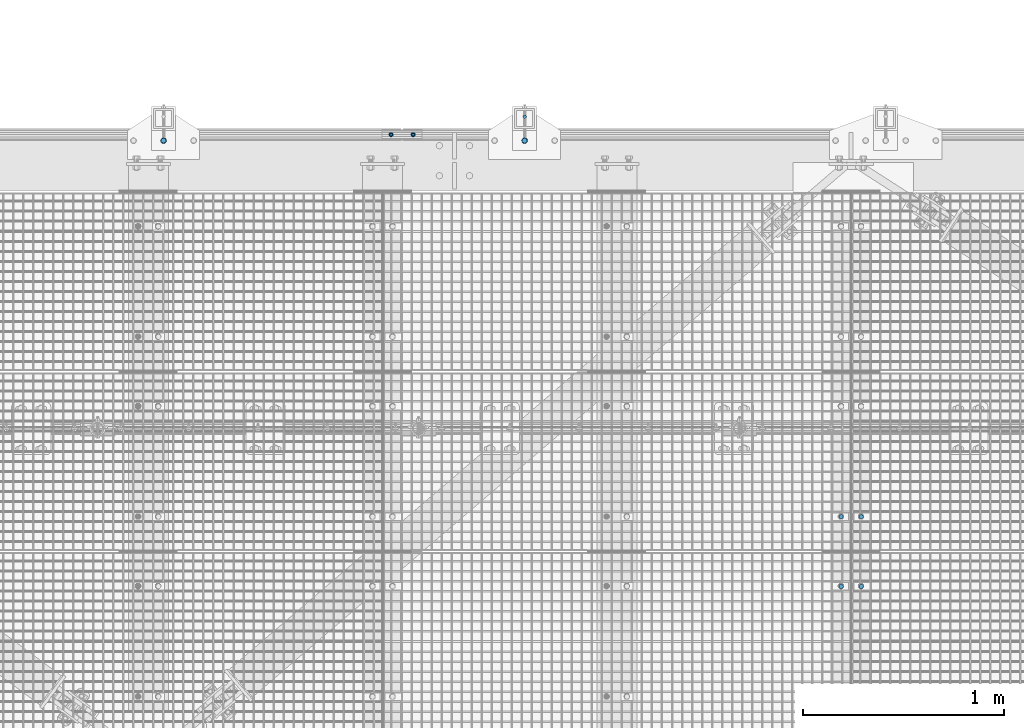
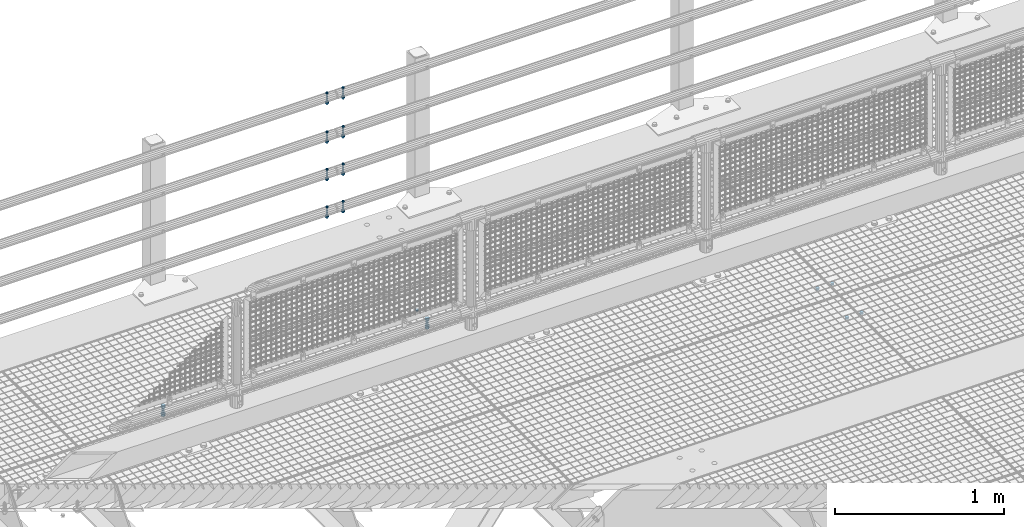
# One storey, part 85 of 1530: 15 mechanical fasteners.
"""IFC2X3 building model written with IfcOpenShell, lengths in millimetres."""

from ifc_helpers import new_model, si_unit, frame, origin_with_axes, place, context, subcontext, project, spatial, faceted_brep, source, transform, mapped, material, type_object, element, save


model = new_model("IFC2X3")

# Units and contexts
model_context = context("Model", 3, precision=1e-05, world=origin_with_axes())
body_context = subcontext(model_context, "Body", "Model", "MODEL_VIEW")
ifc_project = project(units=[si_unit("LENGTHUNIT", "METRE", prefix="MILLI"), si_unit("AREAUNIT", "SQUARE_METRE"), si_unit("VOLUMEUNIT", "CUBIC_METRE"), si_unit("MASSUNIT", "GRAM", prefix="KILO"), si_unit("TIMEUNIT", "SECOND"), si_unit("PLANEANGLEUNIT", "RADIAN"), si_unit("SOLIDANGLEUNIT", "STERADIAN"), si_unit("THERMODYNAMICTEMPERATUREUNIT", "DEGREE_CELSIUS"), si_unit("LUMINOUSINTENSITYUNIT", "LUMEN")], contexts=[model_context])

# Site, building, storey
site_placement = place(None, origin_with_axes())
site = spatial("IfcSite", under=ifc_project, at=site_placement, Name="Brattvåg", CompositionType="ELEMENT")
building_placement = place(site_placement, origin_with_axes())
building = spatial("IfcBuilding", under=site, at=building_placement, Name="Undefined", CompositionType="ELEMENT")
storey_placement = place(building_placement, origin_with_axes())
storey = spatial("IfcBuildingStorey", under=building, at=storey_placement, Name="Undefined", CompositionType="ELEMENT", Elevation=0.0)

# Mechanical fasteners
ifc_material = material(Name="8")
mechanical_fastener_type = type_object("IfcMechanicalFastenerType", Name="Bolt assembly")
shared_shape_1 = source(origin_with_axes(), body_context, "Body", "Brep", [
    faceted_brep([(11.0, -4.99999999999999, 0.0), (9.52627944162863, -4.99999999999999, 5.50000000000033), (5.49999999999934, -4.99999999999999, 9.5262794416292), (-1.13996957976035e-12, -4.99999999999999, 11.0), (-5.50000000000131, -4.99999999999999, 9.52627944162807), (-9.52627944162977, -4.99999999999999, 5.49999999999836), (-11.0, -4.99999999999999, -2.27993915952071e-12), (-9.5262794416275, -4.99999999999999, -5.5000000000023), (-5.49999999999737, -4.99999999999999, -9.52627944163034), (3.40769628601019e-12, -4.99999999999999, -11.0), (5.50000000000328, -4.99999999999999, -9.52627944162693), (9.52627944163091, -4.99999999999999, -5.49999999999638), (9.52627944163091, 10.1, -5.49999999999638), (5.50000000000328, 10.1, -9.52627944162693), (3.40769628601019e-12, 10.1, -11.0), (-5.49999999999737, 10.1, -9.52627944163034), (-9.5262794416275, 10.1, -5.5000000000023), (-11.0, 10.1, -2.27993915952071e-12), (-9.52627944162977, 10.1, 5.49999999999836), (-5.50000000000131, 10.1, 9.52627944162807), (-1.13996957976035e-12, 10.1, 11.0), (5.49999999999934, 10.1, 9.5262794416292), (9.52627944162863, 10.1, 5.50000000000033), (11.0, 10.1, 0.0)], [[[0, 1, 2, 3, 4, 5, 6, 7, 8, 9, 10, 11]], [[12, 13, 14, 15, 16, 17, 18, 19, 20, 21, 22, 23]], [[0, 23, 22, 1]], [[1, 22, 21, 2]], [[2, 21, 20, 3]], [[3, 20, 19, 4]], [[4, 19, 18, 5]], [[5, 18, 17, 6]], [[6, 17, 16, 7]], [[7, 16, 15, 8]], [[8, 15, 14, 9]], [[9, 14, 13, 10]], [[10, 13, 12, 11]], [[11, 12, 23, 0]]]),
])
for number, where, z_axis, x_axis, name in (
    (1, (7628.00477935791, 7224.98931152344, -35.0), (0.0, 1.0, 0.0), (1.0, 0.0, 0.0), "Bolt assembly"),
    (2, (7628.00477935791, 6877.99411010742, -35.0), (0.0, 1.0, 0.0), (1.0, 0.0, 0.0), "Bolt assembly"),
    (3, (7528.01487731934, 7224.9904864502, -35.0), (0.0, -1.0, 0.0), (-1.0, 1.99999855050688e-09, 0.0), "Bolt assembly"),
    (4, (7528.01487731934, 6877.99411010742, -35.0), (0.0, -1.0, 0.0), (-1.0, 1.99999855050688e-09, 0.0), "Bolt assembly"),
):
    element("IfcMechanicalFastener", number, at=place(storey_placement, frame(where, z_axis=z_axis, x_axis=x_axis)), inside=storey, type_object=mechanical_fastener_type, material=ifc_material, Name=name, NominalDiameter=20.0, NominalLength=15.0, context=body_context, shape_type="MappedRepresentation", body=[
        mapped(shared_shape_1, transform((0.0, 0.0, 0.0))),
    ])
shared_shape_2 = source(origin_with_axes(), body_context, "Body", "Brep", [
    faceted_brep([(9.0, -0.000108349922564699, 0.0), (7.79422863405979, -0.000108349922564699, 4.50000000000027), (4.49999999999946, -0.000108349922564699, 7.79422863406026), (-9.3270238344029e-13, -0.000108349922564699, 9.0), (-4.50000000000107, -0.000108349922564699, 7.79422863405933), (-7.79422863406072, -0.000108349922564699, 4.49999999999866), (-9.0, -0.000108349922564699, -1.86540476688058e-12), (-7.79422863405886, -0.000108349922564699, -4.50000000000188), (-4.49999999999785, -0.000108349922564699, -7.79422863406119), (2.78811514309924e-12, -0.000108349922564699, -9.0), (4.50000000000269, -0.000108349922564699, -7.7942286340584), (7.79422863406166, -0.000108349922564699, -4.49999999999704), (7.79422863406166, 10.0998916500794, -4.49999999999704), (4.50000000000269, 10.0998916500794, -7.7942286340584), (2.78811514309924e-12, 10.0998916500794, -9.0), (-4.49999999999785, 10.0998916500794, -7.79422863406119), (-7.79422863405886, 10.0998916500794, -4.50000000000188), (-9.0, 10.0998916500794, -1.86540476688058e-12), (-7.79422863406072, 10.0998916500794, 4.49999999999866), (-4.50000000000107, 10.0998916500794, 7.79422863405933), (-9.3270238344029e-13, 10.0998916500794, 9.0), (4.49999999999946, 10.0998916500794, 7.79422863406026), (7.79422863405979, 10.0998916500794, 4.50000000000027), (9.0, 10.0998916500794, 0.0)], [[[0, 1, 2, 3, 4, 5, 6, 7, 8, 9, 10, 11]], [[12, 13, 14, 15, 16, 17, 18, 19, 20, 21, 22, 23]], [[0, 23, 22, 1]], [[1, 22, 21, 2]], [[2, 21, 20, 3]], [[3, 20, 19, 4]], [[4, 19, 18, 5]], [[5, 18, 17, 6]], [[6, 17, 16, 7]], [[7, 16, 15, 8]], [[8, 15, 14, 9]], [[9, 14, 13, 10]], [[10, 13, 12, 11]], [[11, 12, 23, 0]]]),
])
mechanical_fastener_placement = place(storey_placement, frame((5950.00016021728, 9219.99992874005, -855.000061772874), z_axis=(-1.0, 1.99999855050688e-09, 0.0), x_axis=(0.0, -0.99999999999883, 1.53000000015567e-06)))
element("IfcMechanicalFastener", 5, at=mechanical_fastener_placement, inside=storey, type_object=mechanical_fastener_type, material=ifc_material, Name="Bolt assembly", NominalDiameter=16.0, NominalLength=10.0001087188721, context=body_context, shape_type="MappedRepresentation", body=[
    mapped(shared_shape_2, transform((0.0, 0.0, 0.0))),
])
shared_shape_3 = source(origin_with_axes(), body_context, "Body", "Brep", [
    faceted_brep([(6.49435320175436, -7.50000000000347, 0.0), (4.59220118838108, -7.50000000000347, 4.59220118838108), (3.97664443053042e-16, -7.50000000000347, 6.49435320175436), (-4.59220118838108, -7.50000000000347, 4.59220118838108), (-6.49435320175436, -7.50000000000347, 7.95328886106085e-16), (-4.59220118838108, -7.50000000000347, -4.59220118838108), (-1.19299332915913e-15, -7.50000000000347, -6.49435320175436), (4.59220118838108, -7.50000000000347, -4.59220118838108), (7.34846922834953, -3.46744855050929e-12, -7.34846922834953), (-1.90903542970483e-15, -3.46744855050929e-12, -10.3923048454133), (-7.34846922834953, -3.46744855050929e-12, -7.34846922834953), (-10.3923048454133, 3.46808519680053e-07, 1.27269028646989e-15), (-7.34846922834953, -3.46744855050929e-12, 7.34846922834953), (6.36345143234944e-16, -3.46744855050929e-12, 10.3923048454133), (7.34846922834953, -3.46744855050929e-12, 7.34846922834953), (10.3923048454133, 3.46808519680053e-07, 0.0), (6.0, 3.46808519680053e-07, 0.0), (5.19615242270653, 3.46808519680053e-07, 3.00000000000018), (2.99999999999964, 3.46808519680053e-07, 5.19615242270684), (-6.21801588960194e-13, 3.46808519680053e-07, 6.0), (-3.00000000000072, 3.46808519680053e-07, 5.19615242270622), (-5.19615242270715, 3.46808519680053e-07, 2.9999999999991), (-6.0, 3.46808519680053e-07, -1.24360317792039e-12), (-5.19615242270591, 3.46808519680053e-07, -3.00000000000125), (-2.99999999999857, 3.46808519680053e-07, -5.19615242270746), (1.85874342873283e-12, 3.46808519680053e-07, -6.0), (3.00000000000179, 3.46808519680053e-07, -5.1961524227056), (5.19615242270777, 3.46808519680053e-07, -2.99999999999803), (5.19615242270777, 79.9999999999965, -2.99999999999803), (3.00000000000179, 79.9999999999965, -5.1961524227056), (1.85874342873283e-12, 79.9999999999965, -6.0), (-2.99999999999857, 79.9999999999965, -5.19615242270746), (-5.19615242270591, 79.9999999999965, -3.00000000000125), (-6.0, 79.9999999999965, -1.24360317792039e-12), (-5.19615242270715, 79.9999999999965, 2.9999999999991), (-3.00000000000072, 79.9999999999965, 5.19615242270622), (-6.21801588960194e-13, 79.9999999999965, 6.0), (2.99999999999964, 79.9999999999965, 5.19615242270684), (5.19615242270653, 79.9999999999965, 3.00000000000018), (6.0, 79.9999999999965, 0.0), (12.0, 60.2988956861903, 0.0), (10.3923048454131, 60.2988956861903, 6.00000000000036), (5.99999999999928, 60.2988956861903, 10.3923048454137), (-1.24360317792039e-12, 60.2988956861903, 12.0), (-6.00000000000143, 60.2988956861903, 10.3923048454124), (-10.3923048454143, 60.2988956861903, 5.99999999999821), (-12.0, 60.2988956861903, -2.48720635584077e-12), (-10.3923048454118, 60.2988956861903, -6.00000000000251), (-5.99999999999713, 60.2988956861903, -10.3923048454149), (3.71748685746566e-12, 60.2988956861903, -12.0), (6.00000000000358, 60.2988956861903, -10.3923048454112), (10.3923048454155, 60.2988956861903, -5.99999999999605), (10.3923048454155, 62.7988956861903, -5.99999999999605), (6.00000000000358, 62.7988956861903, -10.3923048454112), (3.71748685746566e-12, 62.7988956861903, -12.0), (-5.99999999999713, 62.7988956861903, -10.3923048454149), (-10.3923048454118, 62.7988956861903, -6.00000000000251), (-12.0, 62.7988956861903, -2.48720635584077e-12), (-10.3923048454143, 62.7988956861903, 5.99999999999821), (-6.00000000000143, 62.7988956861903, 10.3923048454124), (-1.24360317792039e-12, 62.7988956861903, 12.0), (5.99999999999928, 62.7988956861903, 10.3923048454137), (10.3923048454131, 62.7988956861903, 6.00000000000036), (12.0, 62.7988956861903, 0.0), (10.9696551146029, 62.7988956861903, 0.0), (5.48482755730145, 62.7988956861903, 9.5), (-5.48482755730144, 62.7988956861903, 9.5), (-10.9696551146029, 62.7988956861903, 1.34339530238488e-15), (-5.48482755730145, 62.7988956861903, -9.5), (5.48482755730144, 62.7988956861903, -9.5), (5.48482755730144, 73.5988958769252, -9.5), (-5.48482755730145, 73.5988958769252, -9.5), (-10.9696551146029, 73.5988958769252, 1.34339530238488e-15), (-5.48482755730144, 73.5988958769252, 9.5), (5.48482755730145, 73.5988958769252, 9.5), (10.9696551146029, 73.5988958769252, 0.0)], [[[0, 1, 2, 3, 4, 5, 6, 7]], [[8, 9, 10, 11, 12, 13, 14, 15]], [[0, 15, 14, 1]], [[1, 14, 13, 2]], [[2, 13, 12, 3]], [[3, 12, 11, 4]], [[4, 11, 10, 5]], [[5, 10, 9, 6]], [[6, 9, 8, 7]], [[7, 8, 15, 0]], [[16, 17, 18, 19, 20, 21, 22, 23, 24, 25, 26, 27]], [[28, 29, 30, 31, 32, 33, 34, 35, 36, 37, 38, 39]], [[16, 39, 38, 17]], [[17, 38, 37, 18]], [[18, 37, 36, 19]], [[19, 36, 35, 20]], [[20, 35, 34, 21]], [[21, 34, 33, 22]], [[22, 33, 32, 23]], [[23, 32, 31, 24]], [[24, 31, 30, 25]], [[25, 30, 29, 26]], [[26, 29, 28, 27]], [[27, 28, 39, 16]], [[40, 41, 42, 43, 44, 45, 46, 47, 48, 49, 50, 51]], [[52, 53, 54, 55, 56, 57, 58, 59, 60, 61, 62, 63]], [[40, 63, 62, 41]], [[41, 62, 61, 42]], [[42, 61, 60, 43]], [[43, 60, 59, 44]], [[44, 59, 58, 45]], [[45, 58, 57, 46]], [[46, 57, 56, 47]], [[47, 56, 55, 48]], [[48, 55, 54, 49]], [[49, 54, 53, 50]], [[50, 53, 52, 51]], [[51, 52, 63, 40]], [[64, 65, 66, 67, 68, 69]], [[70, 71, 72, 73, 74, 75]], [[64, 75, 74, 65]], [[65, 74, 73, 66]], [[66, 73, 72, 67]], [[67, 72, 71, 68]], [[68, 71, 70, 69]], [[69, 70, 75, 64]]]),
    faceted_brep([(6.5, 0.100000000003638, 0.0), (5.62916512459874, 0.100000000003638, 3.25000000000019), (3.24999999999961, 0.100000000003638, 5.62916512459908), (-6.7361838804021e-13, 0.100000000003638, 6.5), (-3.25000000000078, 0.100000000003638, 5.6291651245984), (-5.62916512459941, 0.100000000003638, 3.24999999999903), (-6.5, 0.100000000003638, -1.34723677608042e-12), (-5.62916512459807, 0.100000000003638, -3.25000000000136), (-3.24999999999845, 0.100000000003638, -5.62916512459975), (2.01363871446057e-12, 0.100000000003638, -6.5), (3.25000000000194, 0.100000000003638, -5.62916512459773), (5.62916512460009, 0.100000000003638, -3.24999999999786), (5.62916512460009, 60.3988956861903, -3.24999999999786), (3.25000000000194, 60.3988956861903, -5.62916512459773), (2.01363871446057e-12, 60.3988956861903, -6.5), (-3.24999999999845, 60.3988956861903, -5.62916512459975), (-5.62916512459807, 60.3988956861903, -3.25000000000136), (-6.5, 60.3988956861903, -1.34723677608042e-12), (-5.62916512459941, 60.3988956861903, 3.24999999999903), (-3.25000000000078, 60.3988956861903, 5.6291651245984), (-6.7361838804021e-13, 60.3988956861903, 6.5), (3.24999999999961, 60.3988956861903, 5.62916512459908), (5.62916512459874, 60.3988956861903, 3.25000000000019), (6.5, 60.3988956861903, 0.0), (6.5, 4.25026510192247, 0.0), (5.62916512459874, 4.25026510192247, 3.25000000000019), (3.24999999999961, 4.25026510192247, 5.62916512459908), (-6.7361838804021e-13, 4.25026510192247, 6.5), (-3.25000000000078, 4.25026510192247, 5.6291651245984), (-5.62916512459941, 4.25026510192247, 3.24999999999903), (-6.5, 4.25026510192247, -1.34723677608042e-12), (-5.62916512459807, 4.25026510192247, -3.25000000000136), (-3.24999999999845, 4.25026510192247, -5.62916512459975), (2.01363871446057e-12, 4.25026510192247, -6.5), (3.25000000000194, 4.25026510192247, -5.62916512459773), (5.62916512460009, 4.25026510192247, -3.24999999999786), (5.62916512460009, 55.3491717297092, -3.24999999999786), (3.25000000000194, 55.3491717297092, -5.62916512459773), (2.01363871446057e-12, 55.3491717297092, -6.5), (-3.24999999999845, 55.3491717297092, -5.62916512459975), (-5.62916512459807, 55.3491717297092, -3.25000000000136), (-6.5, 55.3491717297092, -1.34723677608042e-12), (-5.62916512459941, 55.3491717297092, 3.24999999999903), (-3.25000000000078, 55.3491717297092, 5.6291651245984), (-6.7361838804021e-13, 55.3491717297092, 6.5), (3.24999999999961, 55.3491717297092, 5.62916512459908), (5.62916512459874, 55.3491717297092, 3.25000000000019), (6.5, 55.3491717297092, 0.0)], [[[0, 1, 2, 3, 4, 5, 6, 7, 8, 9, 10, 11]], [[12, 13, 14, 15, 16, 17, 18, 19, 20, 21, 22, 23]], [[0, 23, 22, 1]], [[1, 22, 21, 2]], [[2, 21, 20, 3]], [[3, 20, 19, 4]], [[4, 19, 18, 5]], [[5, 18, 17, 6]], [[6, 17, 16, 7]], [[7, 16, 15, 8]], [[8, 15, 14, 9]], [[9, 14, 13, 10]], [[10, 13, 12, 11]], [[11, 12, 23, 0]], [[24, 25, 26, 27, 28, 29, 30, 31, 32, 33, 34, 35]], [[36, 37, 38, 39, 40, 41, 42, 43, 44, 45, 46, 47]], [[24, 47, 46, 25]], [[25, 46, 45, 26]], [[26, 45, 44, 27]], [[27, 44, 43, 28]], [[28, 43, 42, 29]], [[29, 42, 41, 30]], [[30, 41, 40, 31]], [[31, 40, 39, 32]], [[32, 39, 38, 33]], [[33, 38, 37, 34]], [[34, 37, 36, 35]], [[35, 36, 47, 24]]]),
])
for number, where, z_axis, x_axis, name in (
    (6, (5284.00013732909, 9129.84988021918, 179.7000579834), (1.0, 0.0, 0.0), (0.0, -0.999999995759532, -9.20919999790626e-05), "Bolt assembly"),
    (7, (5284.00013732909, 9129.84988021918, 449.7000579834), (1.0, 0.0, 0.0), (0.0, -0.999999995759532, -9.20919999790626e-05), "Bolt assembly"),
    (8, (5284.00013732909, 9129.84988021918, 719.7000579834), (1.0, 0.0, 0.0), (0.0, -0.999999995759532, -9.20919999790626e-05), "Bolt assembly"),
    (9, (5393.99986267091, 9129.84988021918, 179.7000579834), (1.0, 0.0, 0.0), (0.0, -0.999999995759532, -9.20919999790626e-05), "Bolt assembly"),
    (10, (5393.99986267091, 9129.84988021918, 449.7000579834), (1.0, 0.0, 0.0), (0.0, -0.999999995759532, -9.20919999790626e-05), "Bolt assembly"),
    (11, (5393.99986267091, 9129.84988021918, 719.7000579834), (1.0, 0.0, 0.0), (0.0, -0.999999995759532, -9.20919999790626e-05), "Bolt assembly"),
    (12, (5284.00013732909, 9129.84988021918, 999.7000579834), (1.0, 0.0, 0.0), (0.0, -0.999999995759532, -9.20919999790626e-05), "Bolt assembly"),
    (13, (5393.99986267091, 9129.84988021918, 999.7000579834), (1.0, 0.0, 0.0), (0.0, -0.999999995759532, -9.20919999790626e-05), "Bolt assembly"),
):
    element("IfcMechanicalFastener", number, at=place(storey_placement, frame(where, z_axis=z_axis, x_axis=x_axis)), inside=storey, type_object=mechanical_fastener_type, material=ifc_material, Name=name, NominalDiameter=12.0, NominalLength=80.0, context=body_context, shape_type="MappedRepresentation", body=[
        mapped(shared_shape_3, transform((0.0, 0.0, 0.0))),
    ])
shared_shape_4 = source(origin_with_axes(), body_context, "Body", "Brep", [
    faceted_brep([(13.856406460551, -12.9998916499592, 0.0), (6.92820323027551, -12.9998916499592, 12.0), (-6.92820323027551, -12.9998916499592, 12.0), (-13.856406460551, -12.9998916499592, 1.69692038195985e-15), (-6.92820323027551, -12.9998916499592, -12.0), (6.9282032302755, -12.9998916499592, -12.0), (6.9282032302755, -2.99989164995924, -12.0), (-6.92820323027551, -2.99989164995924, -12.0), (-13.856406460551, -2.99989164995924, 1.69692038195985e-15), (-6.92820323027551, -2.99989164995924, 12.0), (6.92820323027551, -2.99989164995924, 12.0), (13.856406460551, -2.99989164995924, 0.0), (8.0, -2.99989164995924, 0.0), (6.92820323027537, -2.99989164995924, 4.00000000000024), (3.99999999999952, -2.99989164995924, 6.92820323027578), (-8.29068785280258e-13, -2.99989164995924, 8.0), (-4.00000000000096, -2.99989164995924, 6.92820323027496), (-6.9282032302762, -2.99989164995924, 3.99999999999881), (-8.0, -2.99989164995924, -1.65813757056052e-12), (-6.92820323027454, -2.99989164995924, -4.00000000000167), (-3.99999999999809, -2.99989164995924, -6.92820323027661), (2.47832457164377e-12, -2.99989164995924, -8.0), (4.00000000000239, -2.99989164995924, -6.92820323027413), (6.92820323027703, -2.99989164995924, -3.99999999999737), (6.92820323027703, 67.0001083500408, -3.99999999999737), (4.00000000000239, 67.0001083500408, -6.92820323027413), (2.47832457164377e-12, 67.0001083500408, -8.0), (-3.99999999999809, 67.0001083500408, -6.92820323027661), (-6.92820323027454, 67.0001083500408, -4.00000000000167), (-8.0, 67.0001083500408, -1.65813757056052e-12), (-6.9282032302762, 67.0001083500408, 3.99999999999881), (-4.00000000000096, 67.0001083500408, 6.92820323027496), (-8.29068785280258e-13, 67.0001083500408, 8.0), (3.99999999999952, 67.0001083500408, 6.92820323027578), (6.92820323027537, 67.0001083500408, 4.00000000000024), (8.0, 67.0001083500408, 0.0), (15.0, -2.99989164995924, 0.0), (12.9903810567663, -2.99989164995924, 7.50000000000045), (7.4999999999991, -2.99989164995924, 12.9903810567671), (-1.55450397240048e-12, -2.99989164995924, 15.0), (-7.50000000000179, -2.99989164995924, 12.9903810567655), (-12.9903810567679, -2.99989164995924, 7.49999999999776), (-15.0, -2.99989164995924, -3.10900794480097e-12), (-12.9903810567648, -2.99989164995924, -7.50000000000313), (-7.49999999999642, -2.99989164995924, -12.9903810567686), (4.64685857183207e-12, -2.99989164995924, -15.0), (7.50000000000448, -2.99989164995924, -12.990381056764), (12.9903810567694, -2.99989164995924, -7.49999999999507), (12.9903810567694, 0.000108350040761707, -7.49999999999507), (7.50000000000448, 0.000108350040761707, -12.990381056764), (4.64685857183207e-12, 0.000108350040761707, -15.0), (-7.49999999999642, 0.000108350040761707, -12.9903810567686), (-12.9903810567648, 0.000108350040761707, -7.50000000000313), (-15.0, 0.000108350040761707, -3.10900794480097e-12), (-12.9903810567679, 0.000108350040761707, 7.49999999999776), (-7.50000000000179, 0.000108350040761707, 12.9903810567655), (-1.55450397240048e-12, 0.000108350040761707, 15.0), (7.4999999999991, 0.000108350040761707, 12.9903810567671), (12.9903810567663, 0.000108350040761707, 7.50000000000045), (15.0, 0.000108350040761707, 0.0), (15.0, 45.0001982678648, 0.0), (12.9903810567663, 45.0001982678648, 7.50000000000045), (7.4999999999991, 45.0001982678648, 12.9903810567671), (-1.55450397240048e-12, 45.0001982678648, 15.0), (-7.50000000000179, 45.0001982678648, 12.9903810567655), (-12.9903810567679, 45.0001982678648, 7.49999999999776), (-15.0, 45.0001982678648, -3.10900794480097e-12), (-12.9903810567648, 45.0001982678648, -7.50000000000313), (-7.49999999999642, 45.0001982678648, -12.9903810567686), (4.64685857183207e-12, 45.0001982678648, -15.0), (7.50000000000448, 45.0001982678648, -12.990381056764), (12.9903810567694, 45.0001982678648, -7.49999999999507), (12.9903810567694, 48.0001982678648, -7.49999999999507), (7.50000000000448, 48.0001982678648, -12.990381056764), (4.64685857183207e-12, 48.0001982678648, -15.0), (-7.49999999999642, 48.0001982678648, -12.9903810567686), (-12.9903810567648, 48.0001982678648, -7.50000000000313), (-15.0, 48.0001982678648, -3.10900794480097e-12), (-12.9903810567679, 48.0001982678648, 7.49999999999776), (-7.50000000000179, 48.0001982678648, 12.9903810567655), (-1.55450397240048e-12, 48.0001982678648, 15.0), (7.4999999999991, 48.0001982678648, 12.9903810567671), (12.9903810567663, 48.0001982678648, 7.50000000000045), (15.0, 48.0001982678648, 0.0), (13.856406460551, 48.0001982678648, 0.0), (6.92820323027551, 48.0001982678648, 12.0), (-6.92820323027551, 48.0001982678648, 12.0), (-13.856406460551, 48.0001982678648, 1.69692038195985e-15), (-6.92820323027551, 48.0001982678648, -12.0), (6.9282032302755, 48.0001982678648, -12.0), (6.9282032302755, 62.8001984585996, -12.0), (-6.92820323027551, 62.8001984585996, -12.0), (-13.856406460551, 62.8001984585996, 1.69692038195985e-15), (-6.92820323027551, 62.8001984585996, 12.0), (6.92820323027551, 62.8001984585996, 12.0), (13.856406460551, 62.8001984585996, 0.0)], [[[0, 1, 2, 3, 4, 5]], [[6, 7, 8, 9, 10, 11]], [[0, 11, 10, 1]], [[1, 10, 9, 2]], [[2, 9, 8, 3]], [[3, 8, 7, 4]], [[4, 7, 6, 5]], [[5, 6, 11, 0]], [[12, 13, 14, 15, 16, 17, 18, 19, 20, 21, 22, 23]], [[24, 25, 26, 27, 28, 29, 30, 31, 32, 33, 34, 35]], [[12, 35, 34, 13]], [[13, 34, 33, 14]], [[14, 33, 32, 15]], [[15, 32, 31, 16]], [[16, 31, 30, 17]], [[17, 30, 29, 18]], [[18, 29, 28, 19]], [[19, 28, 27, 20]], [[20, 27, 26, 21]], [[21, 26, 25, 22]], [[22, 25, 24, 23]], [[23, 24, 35, 12]], [[36, 37, 38, 39, 40, 41, 42, 43, 44, 45, 46, 47]], [[48, 49, 50, 51, 52, 53, 54, 55, 56, 57, 58, 59]], [[36, 59, 58, 37]], [[37, 58, 57, 38]], [[38, 57, 56, 39]], [[39, 56, 55, 40]], [[40, 55, 54, 41]], [[41, 54, 53, 42]], [[42, 53, 52, 43]], [[43, 52, 51, 44]], [[44, 51, 50, 45]], [[45, 50, 49, 46]], [[46, 49, 48, 47]], [[47, 48, 59, 36]], [[60, 61, 62, 63, 64, 65, 66, 67, 68, 69, 70, 71]], [[72, 73, 74, 75, 76, 77, 78, 79, 80, 81, 82, 83]], [[60, 83, 82, 61]], [[61, 82, 81, 62]], [[62, 81, 80, 63]], [[63, 80, 79, 64]], [[64, 79, 78, 65]], [[65, 78, 77, 66]], [[66, 77, 76, 67]], [[67, 76, 75, 68]], [[68, 75, 74, 69]], [[69, 74, 73, 70]], [[70, 73, 72, 71]], [[71, 72, 83, 60]], [[84, 85, 86, 87, 88, 89]], [[90, 91, 92, 93, 94, 95]], [[84, 95, 94, 85]], [[85, 94, 93, 86]], [[86, 93, 92, 87]], [[87, 92, 91, 88]], [[88, 91, 90, 89]], [[89, 90, 95, 84]]]),
    faceted_brep([(9.0, 0.100108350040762, 0.0), (7.79422863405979, 0.100108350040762, 4.50000000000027), (4.49999999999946, 0.100108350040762, 7.79422863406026), (-9.3270238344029e-13, 0.100108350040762, 9.0), (-4.50000000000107, 0.100108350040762, 7.79422863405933), (-7.79422863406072, 0.100108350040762, 4.49999999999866), (-9.0, 0.100108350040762, -1.86540476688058e-12), (-7.79422863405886, 0.100108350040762, -4.50000000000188), (-4.49999999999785, 0.100108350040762, -7.79422863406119), (2.78811514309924e-12, 0.100108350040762, -9.0), (4.50000000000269, 0.100108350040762, -7.7942286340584), (7.79422863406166, 0.100108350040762, -4.49999999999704), (7.79422863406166, 10.10010835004, -4.49999999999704), (4.50000000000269, 10.10010835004, -7.7942286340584), (2.78811514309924e-12, 10.10010835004, -9.0), (-4.49999999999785, 10.10010835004, -7.79422863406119), (-7.79422863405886, 10.10010835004, -4.50000000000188), (-9.0, 10.10010835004, -1.86540476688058e-12), (-7.79422863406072, 10.10010835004, 4.49999999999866), (-4.50000000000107, 10.10010835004, 7.79422863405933), (-9.3270238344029e-13, 10.10010835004, 9.0), (4.49999999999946, 10.10010835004, 7.79422863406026), (7.79422863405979, 10.10010835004, 4.50000000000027), (9.0, 10.10010835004, 0.0), (9.0, 10.0002383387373, 0.0), (7.79422863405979, 10.0002383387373, 4.50000000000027), (4.49999999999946, 10.0002383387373, 7.79422863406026), (-9.3270238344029e-13, 10.0002383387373, 9.0), (-4.50000000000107, 10.0002383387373, 7.79422863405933), (-7.79422863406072, 10.0002383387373, 4.49999999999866), (-9.0, 10.0002383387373, -1.86540476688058e-12), (-7.79422863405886, 10.0002383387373, -4.50000000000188), (-4.49999999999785, 10.0002383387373, -7.79422863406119), (2.78811514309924e-12, 10.0002383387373, -9.0), (4.50000000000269, 10.0002383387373, -7.7942286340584), (7.79422863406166, 10.0002383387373, -4.49999999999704), (7.79422863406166, 15.000238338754, -4.49999999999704), (4.50000000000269, 15.000238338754, -7.7942286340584), (2.78811514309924e-12, 15.000238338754, -9.0), (-4.49999999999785, 15.000238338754, -7.79422863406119), (-7.79422863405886, 15.000238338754, -4.50000000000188), (-9.0, 15.000238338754, -1.86540476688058e-12), (-7.79422863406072, 15.000238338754, 4.49999999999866), (-4.50000000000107, 15.000238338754, 7.79422863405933), (-9.3270238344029e-13, 15.000238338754, 9.0), (4.49999999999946, 15.000238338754, 7.79422863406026), (7.79422863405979, 15.000238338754, 4.50000000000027), (9.0, 15.000238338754, 0.0), (9.0, 14.9001982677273, 0.0), (7.79422863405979, 14.9001982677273, 4.50000000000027), (4.49999999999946, 14.9001982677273, 7.79422863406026), (-9.3270238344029e-13, 14.9001982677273, 9.0), (-4.50000000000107, 14.9001982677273, 7.79422863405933), (-7.79422863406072, 14.9001982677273, 4.49999999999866), (-9.0, 14.9001982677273, -1.86540476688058e-12), (-7.79422863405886, 14.9001982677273, -4.50000000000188), (-4.49999999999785, 14.9001982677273, -7.79422863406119), (2.78811514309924e-12, 14.9001982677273, -9.0), (4.50000000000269, 14.9001982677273, -7.7942286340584), (7.79422863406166, 14.9001982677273, -4.49999999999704), (7.79422863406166, 45.0001982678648, -4.49999999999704), (4.50000000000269, 45.0001982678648, -7.7942286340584), (2.78811514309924e-12, 45.0001982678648, -9.0), (-4.49999999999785, 45.0001982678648, -7.79422863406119), (-7.79422863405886, 45.0001982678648, -4.50000000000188), (-9.0, 45.0001982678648, -1.86540476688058e-12), (-7.79422863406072, 45.0001982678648, 4.49999999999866), (-4.50000000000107, 45.0001982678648, 7.79422863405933), (-9.3270238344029e-13, 45.0001982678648, 9.0), (4.49999999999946, 45.0001982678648, 7.79422863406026), (7.79422863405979, 45.0001982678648, 4.50000000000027), (9.0, 45.0001982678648, 0.0)], [[[0, 1, 2, 3, 4, 5, 6, 7, 8, 9, 10, 11]], [[12, 13, 14, 15, 16, 17, 18, 19, 20, 21, 22, 23]], [[0, 23, 22, 1]], [[1, 22, 21, 2]], [[2, 21, 20, 3]], [[3, 20, 19, 4]], [[4, 19, 18, 5]], [[5, 18, 17, 6]], [[6, 17, 16, 7]], [[7, 16, 15, 8]], [[8, 15, 14, 9]], [[9, 14, 13, 10]], [[10, 13, 12, 11]], [[11, 12, 23, 0]], [[24, 25, 26, 27, 28, 29, 30, 31, 32, 33, 34, 35]], [[36, 37, 38, 39, 40, 41, 42, 43, 44, 45, 46, 47]], [[24, 47, 46, 25]], [[25, 46, 45, 26]], [[26, 45, 44, 27]], [[27, 44, 43, 28]], [[28, 43, 42, 29]], [[29, 42, 41, 30]], [[30, 41, 40, 31]], [[31, 40, 39, 32]], [[32, 39, 38, 33]], [[33, 38, 37, 34]], [[34, 37, 36, 35]], [[35, 36, 47, 24]], [[48, 49, 50, 51, 52, 53, 54, 55, 56, 57, 58, 59]], [[60, 61, 62, 63, 64, 65, 66, 67, 68, 69, 70, 71]], [[48, 71, 70, 49]], [[49, 70, 69, 50]], [[50, 69, 68, 51]], [[51, 68, 67, 52]], [[52, 67, 66, 53]], [[53, 66, 65, 54]], [[54, 65, 64, 55]], [[55, 64, 63, 56]], [[56, 63, 62, 57]], [[57, 62, 61, 58]], [[58, 61, 60, 59]], [[59, 60, 71, 48]]]),
])
for number, where, z_axis, x_axis, name in (
    (14, (4150.00016021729, 9099.99968338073, -844.999801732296), (-1.0, 1.99999855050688e-09, 0.0), (0.0, 0.999999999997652, -2.16700000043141e-06), "Bolt assembly"),
    (15, (5950.00016021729, 9099.99968338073, -844.999801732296), (-1.0, 1.99999855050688e-09, 0.0), (0.0, 0.999999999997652, -2.16700000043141e-06), "Bolt assembly"),
):
    element("IfcMechanicalFastener", number, at=place(storey_placement, frame(where, z_axis=z_axis, x_axis=x_axis)), inside=storey, type_object=mechanical_fastener_type, material=ifc_material, Name=name, NominalDiameter=16.0, NominalLength=70.0, context=body_context, shape_type="MappedRepresentation", body=[
        mapped(shared_shape_4, transform((0.0, 0.0, 0.0))),
    ])

save(model, "model.ifc")
